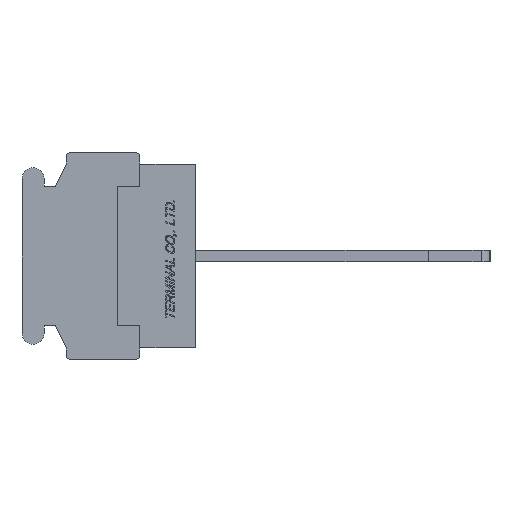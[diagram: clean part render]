
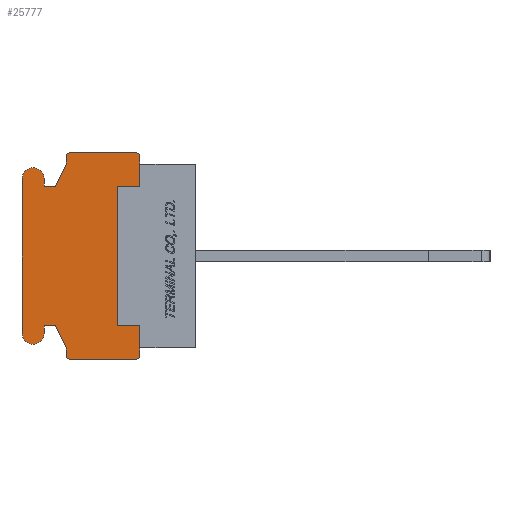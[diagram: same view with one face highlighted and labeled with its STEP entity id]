
A CAD part, left-side view. The second image highlights one B-rep face of the part: STEP entity #25777.
In plain terms, the highlighted planar face has unit normal (-1, 0, 0).
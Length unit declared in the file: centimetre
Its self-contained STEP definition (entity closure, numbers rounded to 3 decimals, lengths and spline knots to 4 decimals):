
#1310=CIRCLE('',#43353,0.02);
#1311=CIRCLE('',#43357,0.02);
#1312=CIRCLE('',#43360,0.02);
#1313=CIRCLE('',#43366,0.075);
#1314=CIRCLE('',#43369,0.075);
#1315=CIRCLE('',#43375,0.02);
#3546=VERTEX_POINT('',#40109);
#3547=VERTEX_POINT('',#40111);
#3548=VERTEX_POINT('',#40115);
#3549=VERTEX_POINT('',#40119);
#3550=VERTEX_POINT('',#40121);
#3551=VERTEX_POINT('',#40125);
#3552=VERTEX_POINT('',#40129);
#3553=VERTEX_POINT('',#40133);
#3554=VERTEX_POINT('',#40137);
#3555=VERTEX_POINT('',#40141);
#3556=VERTEX_POINT('',#40145);
#3557=VERTEX_POINT('',#40149);
#3558=VERTEX_POINT('',#40153);
#3559=VERTEX_POINT('',#40157);
#3560=VERTEX_POINT('',#40161);
#3561=VERTEX_POINT('',#40165);
#3562=VERTEX_POINT('',#40169);
#3563=VERTEX_POINT('',#40173);
#3564=VERTEX_POINT('',#40177);
#3565=VERTEX_POINT('',#40181);
#3566=VERTEX_POINT('',#40187);
#3567=VERTEX_POINT('',#40189);
#3568=VERTEX_POINT('',#40191);
#3569=VERTEX_POINT('',#40193);
#6340=VECTOR('',#31869,1.);
#6342=VECTOR('',#31872,1.);
#6346=VECTOR('',#31881,1.);
#6349=VECTOR('',#31889,1.);
#6351=VECTOR('',#31892,1.);
#6353=VECTOR('',#31895,1.);
#6355=VECTOR('',#31898,1.);
#6358=VECTOR('',#31906,1.);
#6361=VECTOR('',#31914,1.);
#6363=VECTOR('',#31917,1.);
#6365=VECTOR('',#31920,1.);
#6367=VECTOR('',#31923,1.);
#6369=VECTOR('',#31930,1.);
#6370=VECTOR('',#31932,1.);
#6371=VECTOR('',#31933,1.);
#6372=VECTOR('',#31934,1.);
#6373=VECTOR('',#31935,1.);
#6374=VECTOR('',#31936,1.);
#9212=LINE('',#40116,#6340);
#9214=LINE('',#40120,#6342);
#9218=LINE('',#40130,#6346);
#9221=LINE('',#40138,#6349);
#9223=LINE('',#40142,#6351);
#9225=LINE('',#40146,#6353);
#9227=LINE('',#40150,#6355);
#9230=LINE('',#40158,#6358);
#9233=LINE('',#40166,#6361);
#9235=LINE('',#40170,#6363);
#9237=LINE('',#40174,#6365);
#9239=LINE('',#40178,#6367);
#9241=LINE('',#40184,#6369);
#9242=LINE('',#40186,#6370);
#9243=LINE('',#40188,#6371);
#9244=LINE('',#40190,#6372);
#9245=LINE('',#40192,#6373);
#9246=LINE('',#40194,#6374);
#13020=EDGE_CURVE('',#3546,#3547,#1310,.T.);
#13023=EDGE_CURVE('',#3548,#3546,#9212,.T.);
#13025=EDGE_CURVE('',#3549,#3550,#9214,.T.);
#13028=EDGE_CURVE('',#3551,#3549,#1311,.T.);
#13030=EDGE_CURVE('',#3552,#3551,#9218,.T.);
#13032=EDGE_CURVE('',#3553,#3552,#1312,.T.);
#13034=EDGE_CURVE('',#3554,#3553,#9221,.T.);
#13036=EDGE_CURVE('',#3555,#3554,#9223,.T.);
#13038=EDGE_CURVE('',#3556,#3555,#9225,.T.);
#13040=EDGE_CURVE('',#3557,#3556,#9227,.T.);
#13042=EDGE_CURVE('',#3558,#3557,#1313,.T.);
#13044=EDGE_CURVE('',#3559,#3558,#9230,.T.);
#13046=EDGE_CURVE('',#3560,#3559,#1314,.T.);
#13048=EDGE_CURVE('',#3561,#3560,#9233,.T.);
#13050=EDGE_CURVE('',#3562,#3561,#9235,.T.);
#13052=EDGE_CURVE('',#3563,#3562,#9237,.T.);
#13054=EDGE_CURVE('',#3564,#3563,#9239,.T.);
#13056=EDGE_CURVE('',#3565,#3564,#1315,.T.);
#13057=EDGE_CURVE('',#3547,#3565,#9241,.T.);
#13058=EDGE_CURVE('',#3566,#3550,#9242,.T.);
#13059=EDGE_CURVE('',#3548,#3567,#9243,.T.);
#13060=EDGE_CURVE('',#3567,#3568,#9244,.T.);
#13061=EDGE_CURVE('',#3568,#3569,#9245,.T.);
#13062=EDGE_CURVE('',#3569,#3566,#9246,.T.);
#20290=ORIENTED_EDGE('',*,*,#13058,.T.);
#20291=ORIENTED_EDGE('',*,*,#13025,.F.);
#20292=ORIENTED_EDGE('',*,*,#13028,.F.);
#20293=ORIENTED_EDGE('',*,*,#13030,.F.);
#20294=ORIENTED_EDGE('',*,*,#13032,.F.);
#20295=ORIENTED_EDGE('',*,*,#13034,.F.);
#20296=ORIENTED_EDGE('',*,*,#13036,.F.);
#20297=ORIENTED_EDGE('',*,*,#13038,.F.);
#20298=ORIENTED_EDGE('',*,*,#13040,.F.);
#20299=ORIENTED_EDGE('',*,*,#13042,.F.);
#20300=ORIENTED_EDGE('',*,*,#13044,.F.);
#20301=ORIENTED_EDGE('',*,*,#13046,.F.);
#20302=ORIENTED_EDGE('',*,*,#13048,.F.);
#20303=ORIENTED_EDGE('',*,*,#13050,.F.);
#20304=ORIENTED_EDGE('',*,*,#13052,.F.);
#20305=ORIENTED_EDGE('',*,*,#13054,.F.);
#20306=ORIENTED_EDGE('',*,*,#13056,.F.);
#20307=ORIENTED_EDGE('',*,*,#13057,.F.);
#20308=ORIENTED_EDGE('',*,*,#13020,.F.);
#20309=ORIENTED_EDGE('',*,*,#13023,.F.);
#20310=ORIENTED_EDGE('',*,*,#13059,.T.);
#20311=ORIENTED_EDGE('',*,*,#13060,.T.);
#20312=ORIENTED_EDGE('',*,*,#13061,.T.);
#20313=ORIENTED_EDGE('',*,*,#13062,.T.);
#22744=EDGE_LOOP('',(#20290,#20291,#20292,#20293,#20294,#20295,#20296,#20297,
#20298,#20299,#20300,#20301,#20302,#20303,#20304,#20305,#20306,#20307,#20308,
#20309,#20310,#20311,#20312,#20313));
#24302=FACE_BOUND('',#22744,.T.);
#25777=ADVANCED_FACE('',(#24302),#26864,.F.);
#26864=PLANE('',#43377);
#31864=DIRECTION('',(1.,0.,0.));
#31865=DIRECTION('',(0.,0.,-0.02));
#31869=DIRECTION('',(0.,0.,-1.));
#31872=DIRECTION('',(0.,0.,-1.));
#31877=DIRECTION('',(1.,0.,0.));
#31878=DIRECTION('',(0.,0.,-0.02));
#31881=DIRECTION('',(0.,-1.,0.));
#31885=DIRECTION('',(1.,0.,0.));
#31886=DIRECTION('',(0.,0.,-0.02));
#31889=DIRECTION('',(0.,0.,1.));
#31892=DIRECTION('',(0.,-0.447,0.894));
#31895=DIRECTION('',(0.,-1.,0.));
#31898=DIRECTION('',(0.,0.,-1.));
#31902=DIRECTION('',(1.,0.,0.));
#31903=DIRECTION('',(0.,0.,-0.075));
#31906=DIRECTION('',(0.,0.,1.));
#31910=DIRECTION('',(1.,0.,0.));
#31911=DIRECTION('',(0.,0.,-0.075));
#31914=DIRECTION('',(0.,0.,-1.));
#31917=DIRECTION('',(0.,1.,0.));
#31920=DIRECTION('',(0.,0.447,0.894));
#31923=DIRECTION('',(0.,0.,1.));
#31927=DIRECTION('',(1.,0.,0.));
#31928=DIRECTION('',(0.,0.,-0.02));
#31930=DIRECTION('',(0.,1.,0.));
#31931=DIRECTION('',(1.,0.,0.));
#31932=DIRECTION('',(0.,0.,1.));
#31933=DIRECTION('',(0.,0.,1.));
#31934=DIRECTION('',(0.,1.,0.));
#31935=DIRECTION('',(0.,0.,1.));
#31936=DIRECTION('',(0.,-1.,0.));
#40109=CARTESIAN_POINT('',(-0.762,0.38,-0.68));
#40110=CARTESIAN_POINT('',(-0.762,0.4,-0.68));
#40111=CARTESIAN_POINT('',(-0.762,0.4,-0.7));
#40115=CARTESIAN_POINT('',(-0.762,0.38,-0.625));
#40116=CARTESIAN_POINT('',(-0.762,0.38,-0.625));
#40119=CARTESIAN_POINT('',(-0.762,0.38,0.68));
#40120=CARTESIAN_POINT('',(-0.762,0.38,0.68));
#40121=CARTESIAN_POINT('',(-0.762,0.38,0.625));
#40125=CARTESIAN_POINT('',(-0.762,0.4,0.7));
#40126=CARTESIAN_POINT('',(-0.762,0.4,0.68));
#40129=CARTESIAN_POINT('',(-0.762,0.86,0.7));
#40130=CARTESIAN_POINT('',(-0.762,0.86,0.7));
#40133=CARTESIAN_POINT('',(-0.762,0.88,0.68));
#40134=CARTESIAN_POINT('',(-0.762,0.86,0.68));
#40137=CARTESIAN_POINT('',(-0.762,0.88,0.625));
#40138=CARTESIAN_POINT('',(-0.762,0.88,0.625));
#40141=CARTESIAN_POINT('',(-0.762,0.955,0.475));
#40142=CARTESIAN_POINT('',(-0.762,0.955,0.475));
#40145=CARTESIAN_POINT('',(-0.762,1.03,0.475));
#40146=CARTESIAN_POINT('',(-0.762,1.03,0.475));
#40149=CARTESIAN_POINT('',(-0.762,1.03,0.525));
#40150=CARTESIAN_POINT('',(-0.762,1.03,0.525));
#40153=CARTESIAN_POINT('',(-0.762,1.18,0.525));
#40154=CARTESIAN_POINT('',(-0.762,1.105,0.525));
#40157=CARTESIAN_POINT('',(-0.762,1.18,-0.525));
#40158=CARTESIAN_POINT('',(-0.762,1.18,-0.525));
#40161=CARTESIAN_POINT('',(-0.762,1.03,-0.525));
#40162=CARTESIAN_POINT('',(-0.762,1.105,-0.525));
#40165=CARTESIAN_POINT('',(-0.762,1.03,-0.475));
#40166=CARTESIAN_POINT('',(-0.762,1.03,-0.475));
#40169=CARTESIAN_POINT('',(-0.762,0.955,-0.475));
#40170=CARTESIAN_POINT('',(-0.762,0.955,-0.475));
#40173=CARTESIAN_POINT('',(-0.762,0.88,-0.625));
#40174=CARTESIAN_POINT('',(-0.762,0.88,-0.625));
#40177=CARTESIAN_POINT('',(-0.762,0.88,-0.68));
#40178=CARTESIAN_POINT('',(-0.762,0.88,-0.68));
#40181=CARTESIAN_POINT('',(-0.762,0.86,-0.7));
#40182=CARTESIAN_POINT('',(-0.762,0.86,-0.68));
#40184=CARTESIAN_POINT('',(-0.762,0.4,-0.7));
#40185=CARTESIAN_POINT('',(-0.762,0.6059,0.));
#40186=CARTESIAN_POINT('',(-0.762,0.38,0.475));
#40187=CARTESIAN_POINT('',(-0.762,0.38,0.475));
#40188=CARTESIAN_POINT('',(-0.762,0.38,-0.625));
#40189=CARTESIAN_POINT('',(-0.762,0.38,-0.475));
#40190=CARTESIAN_POINT('',(-0.762,0.38,-0.475));
#40191=CARTESIAN_POINT('',(-0.762,0.53,-0.475));
#40192=CARTESIAN_POINT('',(-0.762,0.53,-0.475));
#40193=CARTESIAN_POINT('',(-0.762,0.53,0.475));
#40194=CARTESIAN_POINT('',(-0.762,0.53,0.475));
#43353=AXIS2_PLACEMENT_3D('',#40110,#31864,#31865);
#43357=AXIS2_PLACEMENT_3D('',#40126,#31877,#31878);
#43360=AXIS2_PLACEMENT_3D('',#40134,#31885,#31886);
#43366=AXIS2_PLACEMENT_3D('',#40154,#31902,#31903);
#43369=AXIS2_PLACEMENT_3D('',#40162,#31910,#31911);
#43375=AXIS2_PLACEMENT_3D('',#40182,#31927,#31928);
#43377=AXIS2_PLACEMENT_3D('',#40185,#31931,$);
